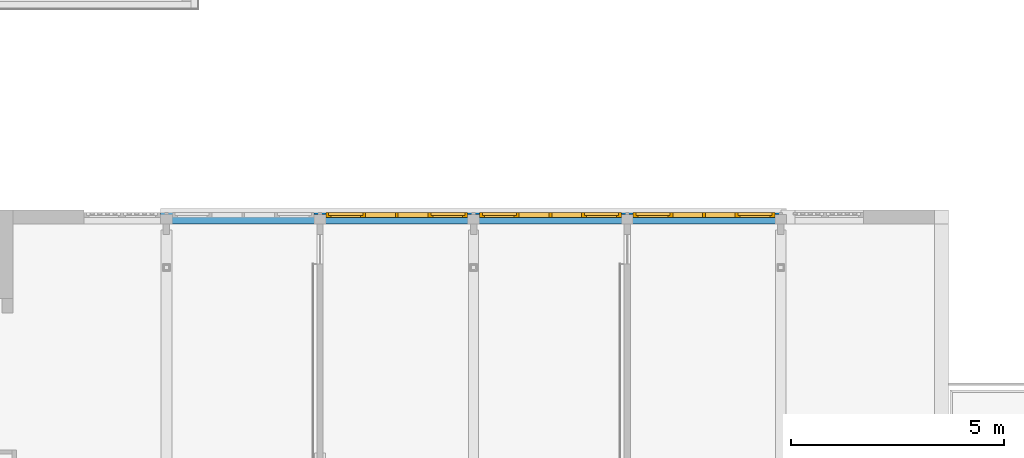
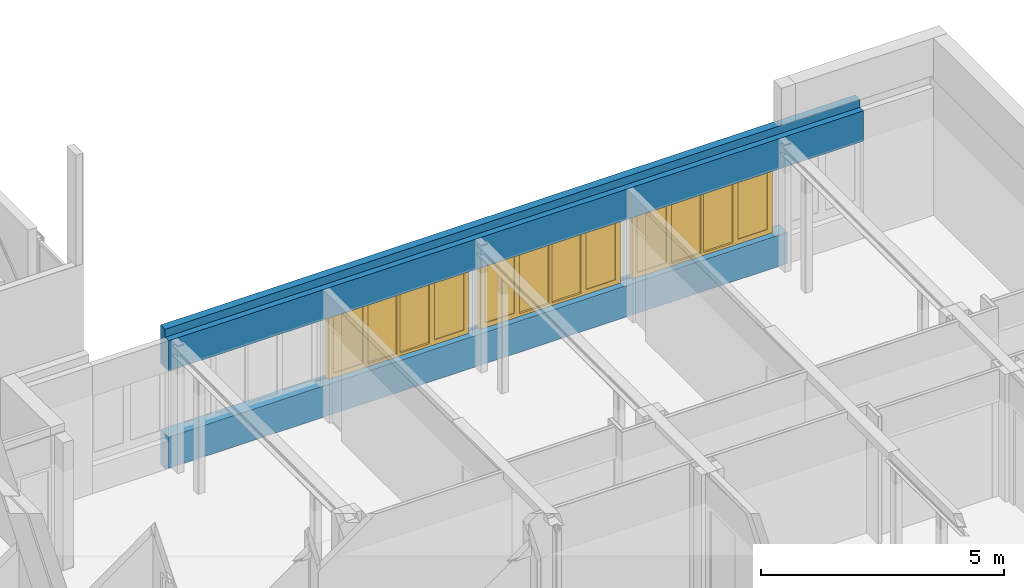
# One storey, part 41 of 117: 3 windows, 1 wall, 6 openings.
"""IFC2X3 building model written with IfcOpenShell, lengths in millimetres."""

from ifc_helpers import new_model, entity, si_unit, converted_unit, derived_unit, money_unit, direction, frame, origin_with_axes, place, context, subcontext, project, spatial, open_shell, faceted_brep, surface_model, source, transform, mapped, material, type_object, type_shapes, element, fill, save


model = new_model("IFC2X3")

# Units and contexts
model_context = context("Model", 3, precision=0.01, world=origin_with_axes(), true_north=direction((0.0, 1.0)))
body_context = subcontext(model_context, "Body", "Model", "MODEL_VIEW")
ifc_project = project(units=[si_unit("LENGTHUNIT", "METRE", prefix="MILLI"), si_unit("AREAUNIT", "SQUARE_METRE"), si_unit("VOLUMEUNIT", "CUBIC_METRE"), converted_unit("PLANEANGLEUNIT", "DEGREE", entity("IfcPlaneAngleMeasure", 0.0174532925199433), si_unit("PLANEANGLEUNIT", "RADIAN"), dimensions=[0, 0, 0, 0, 0, 0, 0]), money_unit("EUR"), converted_unit("TIMEUNIT", "Year", entity("IfcTimeMeasure", 31557600.0), si_unit("TIMEUNIT", "SECOND"), dimensions=[0, 0, 1, 0, 0, 0, 0]), si_unit("MASSUNIT", "GRAM", prefix="KILO"), si_unit("THERMODYNAMICTEMPERATUREUNIT", "DEGREE_CELSIUS"), si_unit("LUMINOUSINTENSITYUNIT", "LUMEN"), si_unit("ENERGYUNIT", "JOULE", prefix="MEGA"), derived_unit("THERMALCONDUCTANCEUNIT", [(si_unit("POWERUNIT", "WATT"), 1), (si_unit("LENGTHUNIT", "METRE"), -1), (si_unit("THERMODYNAMICTEMPERATUREUNIT", "KELVIN"), -1)]), derived_unit("SPECIFICHEATCAPACITYUNIT", [(si_unit("ENERGYUNIT", "JOULE"), 1), (si_unit("MASSUNIT", "GRAM", prefix="KILO"), -1), (si_unit("THERMODYNAMICTEMPERATUREUNIT", "KELVIN"), -1)]), derived_unit("MASSDENSITYUNIT", [(si_unit("MASSUNIT", "GRAM", prefix="KILO"), 1), (si_unit("VOLUMEUNIT", "CUBIC_METRE"), -1)])], contexts=[model_context])

# Site, building, storey
site_placement = place(None, origin_with_axes())
site = spatial("IfcSite", under=ifc_project, at=site_placement, Name="Site", CompositionType="ELEMENT")
building_placement = place(site_placement, origin_with_axes())
building = spatial("IfcBuilding", under=site, at=building_placement, Name="Naam gebouw", CompositionType="ELEMENT")
storey_placement = place(building_placement, frame((0.0, 0.0, 4150.0), z_axis=(0.0, 0.0, 1.0), x_axis=(1.0, 0.0, 0.0)))
storey = spatial("IfcBuildingStorey", under=building, at=storey_placement, Name="1e verdieping N", CompositionType="ELEMENT", Elevation=4150.0)

# Wall, openings, windows
ifc_material = material(Name="ALG - CONSTRUCTIEF")
wall_type = type_object("IfcWallType", Name="ALG - CONSTRUCTIEF 330", PredefinedType="NOTDEFINED")
wall_placement = place(storey_placement, frame((52337.49999999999, 27505.91242510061, -99.99999999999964), z_axis=(0.0, 0.0, 1.0), x_axis=(-1.0, 0.0, 0.0)))
wall = element("IfcWall", 1, at=wall_placement, inside=storey, type_object=wall_type, material=ifc_material, Name="_Wand-x", context=body_context, shape_type="Brep", body=[
    faceted_brep([(1799.999999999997, -216.0000000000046, 883.0000000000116), (1799.999999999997, -259.999999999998, 883.0000000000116), (2075.00000000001, -259.999999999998, 883.0000000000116), (2075.00000000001, -216.0000000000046, 883.0000000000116), (1799.999999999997, 0.0, 883.0000000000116), (1799.999999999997, 0.0, 786.5000000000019), (1799.999999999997, -146.0000000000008, 786.5000000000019), (1799.999999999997, -145.9999999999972, 99.99999999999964), (1799.999999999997, -145.9999999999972, 0.0), (1799.999999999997, -259.999999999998, 0.0), (1799.999999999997, -329.9999999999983, 0.0), (1799.999999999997, -329.9999999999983, 883.0000000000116), (16475.0, -329.9999999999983, 883.0000000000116), (16475.0, -259.999999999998, 883.0000000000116), (16200.0, -259.999999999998, 883.0000000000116), (16200.0, -216.0000000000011, 883.0000000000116), (16474.99999999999, -216.0000000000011, 883.0000000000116), (16474.99999999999, 0.0, 883.0000000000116), (5675.000000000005, -259.999999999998, 883.0000000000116), (5399.999999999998, -259.999999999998, 883.0000000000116), (5399.999999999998, -216.0000000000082, 883.0000000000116), (5675.000000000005, -216.0000000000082, 882.9999999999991), (9275.000000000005, -259.9999999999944, 883.0000000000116), (9000.0, -259.9999999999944, 883.0000000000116), (9000.0, -216.0000000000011, 882.9999999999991), (9275.000000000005, -216.0000000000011, 882.9999999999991), (12875.00000000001, -259.999999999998, 883.0000000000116), (12599.99999999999, -259.999999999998, 883.0000000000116), (12599.99999999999, -216.0000000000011, 883.0000000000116), (12875.00000000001, -216.0000000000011, 883.0000000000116), (16475.0, 0.0, 786.5000000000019), (16475.0, 0.0, 99.99999999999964), (1799.999999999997, 0.0, 99.99999999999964), (16475.0, -145.9999999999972, 99.99999999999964), (16475.0, -145.9999999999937, 0.0), (16475.0, -329.9999999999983, 0.0), (16475.0, -145.9999999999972, 786.5000000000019)], [[[0, 1, 2, 3]], [[1, 0, 4, 5, 6, 7, 8, 9, 10, 11]], [[4, 0, 3, 2, 1, 11, 12, 13, 14, 15, 16, 17], [18, 19, 20, 21], [22, 23, 24, 25], [26, 27, 28, 29]], [[5, 4, 17, 30, 31, 32]], [[6, 5, 32, 7]], [[8, 7, 33, 34]], [[9, 8, 34, 35, 10]], [[10, 35, 12, 11]], [[16, 13, 12, 35, 34, 33, 36, 30, 17]], [[14, 13, 16, 15]], [[19, 18, 21, 20]], [[23, 22, 25, 24]], [[27, 26, 29, 28]], [[36, 33, 31, 30]], [[7, 32, 31, 33]]]),
    faceted_brep([(0.0, 0.0, 2539.999999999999), (0.0, -259.999999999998, 2539.999999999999), (0.0, -329.9999999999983, 2539.999999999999), (0.0, -329.9999999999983, 3500.0), (0.0, -145.5905537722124, 3500.0), (0.0, -145.5905537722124, 3300.0), (0.0, 0.0, 3300.0), (1799.999999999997, 0.0, 2539.999999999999), (16474.99999999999, 0.0, 2539.999999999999), (16475.0, -145.9999999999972, 2539.999999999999), (16474.99999999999, -216.0000000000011, 2539.999999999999), (16200.0, -216.0000000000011, 2539.999999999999), (16200.0, -259.999999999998, 2539.999999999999), (16475.0, -259.999999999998, 2539.999999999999), (16475.0, -329.9999999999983, 2539.999999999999), (5399.999999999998, -216.0000000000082, 2539.999999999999), (5399.999999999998, -259.999999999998, 2539.999999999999), (5675.000000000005, -259.999999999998, 2539.999999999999), (5675.000000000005, -216.0000000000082, 2539.999999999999), (9000.0, -259.9999999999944, 2539.999999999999), (9275.000000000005, -259.9999999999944, 2539.999999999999), (9275.000000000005, -216.0000000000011, 2539.999999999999), (9000.0, -216.0000000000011, 2539.999999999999), (12599.99999999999, -259.999999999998, 2539.999999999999), (12875.00000000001, -259.999999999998, 2539.999999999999), (12875.00000000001, -216.0000000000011, 2539.999999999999), (12599.99999999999, -216.0000000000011, 2539.999999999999), (1799.999999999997, -216.0000000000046, 2539.999999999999), (1799.999999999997, -259.999999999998, 2539.999999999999), (2075.00000000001, -259.999999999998, 2539.999999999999), (2075.00000000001, -216.0000000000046, 2539.999999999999), (16475.0, -329.9999999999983, 3500.0), (16475.0, -146.0000000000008, 3500.0), (16475.0, -146.0000000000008, 3300.0), (16475.0, 0.0, 3300.0)], [[[0, 1, 2, 3, 4, 5, 6]], [[7, 8, 9, 10, 11, 12, 13, 14, 2, 1, 0], [15, 16, 17, 18], [19, 20, 21, 22], [23, 24, 25, 26], [27, 28, 29, 30]], [[14, 31, 3, 2]], [[4, 3, 31, 32]], [[5, 4, 32, 33]], [[6, 5, 33, 34]], [[7, 0, 6, 34, 8]], [[33, 9, 8, 34]], [[33, 32, 31, 14, 13, 10, 9]], [[13, 12, 11, 10]], [[16, 15, 18, 17]], [[20, 19, 22, 21]], [[24, 23, 26, 25]], [[28, 27, 30, 29]]]),
])
opening_1_placement = place(wall_placement, frame((3737.499999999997, 0.0, 883.0000000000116), z_axis=(0.0, 0.0, 1.0), x_axis=(1.0, 0.0, 0.0)))
opening_1 = element("IfcOpeningElement", 2, at=opening_1_placement, cuts=wall, Name="_Merk-038", context=body_context, shape_type="Brep", body=[
    faceted_brep([(1662.500000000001, -259.999999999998, 0.0), (1662.500000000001, -259.999999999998, 1656.999999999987), (1662.500000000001, -331.0000000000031, 1656.999999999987), (1662.500000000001, -331.0000000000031, 0.0), (1662.500000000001, 1.000000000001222, 0.0), (1662.500000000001, 1.000000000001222, 1656.999999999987), (-1937.5, -259.999999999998, 1656.999999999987), (-1937.5, -331.0000000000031, 1656.999999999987), (-1937.5, 1.000000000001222, 1656.999999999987), (-1937.5, -331.0000000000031, 0.0), (-1937.5, -259.999999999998, 0.0), (-1937.5, 1.000000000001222, 0.0)], [[[0, 1, 2, 3]], [[1, 0, 4, 5]], [[6, 7, 2, 1, 5, 8]], [[7, 9, 3, 2]], [[0, 3, 9, 10, 11, 4]], [[5, 4, 11, 8]], [[6, 10, 9, 7]], [[10, 6, 8, 11]]]),
])
opening_2_placement = place(wall_placement, frame((10937.5, 0.0, 883.0000000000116), z_axis=(0.0, 0.0, 1.0), x_axis=(1.0, 0.0, 0.0)))
opening_2 = element("IfcOpeningElement", 3, at=opening_2_placement, cuts=wall, Name="_Merk-038", context=body_context, shape_type="Brep", body=[
    faceted_brep([(1662.500000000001, -259.9999999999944, 0.0), (1662.500000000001, -259.9999999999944, 1656.999999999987), (1662.500000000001, -330.9999999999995, 1656.999999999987), (1662.500000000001, -330.9999999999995, 0.0), (1662.500000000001, 1.000000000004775, 0.0), (1662.500000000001, 1.000000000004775, 1656.999999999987), (-1937.5, -259.9999999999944, 1656.999999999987), (-1937.5, -330.9999999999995, 1656.999999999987), (-1937.5, 1.000000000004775, 1656.999999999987), (-1937.5, -330.9999999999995, 0.0), (-1937.5, -259.9999999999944, 0.0), (-1937.5, 1.000000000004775, 0.0)], [[[0, 1, 2, 3]], [[1, 0, 4, 5]], [[6, 7, 2, 1, 5, 8]], [[7, 9, 3, 2]], [[0, 3, 9, 10, 11, 4]], [[5, 4, 11, 8]], [[6, 10, 9, 7]], [[10, 6, 8, 11]]]),
])
opening_3_placement = place(wall_placement, frame((14537.49999999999, 0.0, 883.0000000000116), z_axis=(0.0, 0.0, 1.0), x_axis=(1.0, 0.0, 0.0)))
element("IfcOpeningElement", 4, at=opening_3_placement, cuts=wall, Name="_Merk-038", context=body_context, shape_type="Brep", body=[
    faceted_brep([(1937.5, -259.999999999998, 0.0), (1937.5, -259.999999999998, 1656.999999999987), (1937.5, -330.9999999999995, 1656.999999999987), (1937.5, -330.9999999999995, 0.0), (1937.5, 1.000000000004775, 0.0), (1937.5, 1.000000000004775, 1656.999999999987), (-1937.5, -259.999999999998, 1656.999999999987), (-1937.5, -330.9999999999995, 1656.999999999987), (-1937.5, 1.000000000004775, 1656.999999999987), (-1937.5, -330.9999999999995, 0.0), (-1937.5, -259.999999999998, 0.0), (-1937.5, 1.000000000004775, 0.0)], [[[0, 1, 2, 3]], [[1, 0, 4, 5]], [[6, 7, 2, 1, 5, 8]], [[7, 9, 3, 2]], [[0, 3, 9, 10, 11, 4]], [[5, 4, 11, 8]], [[6, 10, 9, 7]], [[10, 6, 8, 11]]]),
])
opening_4_placement = place(wall_placement, frame((7337.499999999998, 0.0, 883.0000000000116), z_axis=(0.0, 0.0, 1.0), x_axis=(1.0, 0.0, 0.0)))
opening_4 = element("IfcOpeningElement", 5, at=opening_4_placement, cuts=wall, Name="_Merk-038", context=body_context, shape_type="Brep", body=[
    faceted_brep([(1662.500000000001, -259.999999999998, 0.0), (1662.500000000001, -259.999999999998, 1656.999999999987), (1662.500000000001, -331.0000000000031, 1656.999999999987), (1662.500000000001, -331.0000000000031, 0.0), (1662.500000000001, 1.000000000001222, 0.0), (1662.500000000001, 1.000000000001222, 1656.999999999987), (-1937.5, -260.0000000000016, 1656.999999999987), (-1937.5, -331.0000000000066, 1656.999999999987), (-1937.5, 0.9999999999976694, 1656.999999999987), (-1937.5, -331.0000000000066, 0.0), (-1937.5, -260.0000000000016, 0.0), (-1937.5, 0.9999999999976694, 0.0)], [[[0, 1, 2, 3]], [[1, 0, 4, 5]], [[6, 7, 2, 1, 5, 8]], [[7, 9, 3, 2]], [[0, 3, 9, 10, 11, 4]], [[5, 4, 11, 8]], [[6, 10, 9, 7]], [[10, 6, 8, 11]]]),
])
opening_5_placement = place(wall_placement, frame((17375.0, 0.0, -960.0000000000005), z_axis=(0.0, 0.0, 1.0), x_axis=(1.0, 0.0, 0.0)))
element("IfcOpeningElement", 6, at=opening_5_placement, cuts=wall, Name="_Merk-037", context=body_context, shape_type="Brep", body=[
    faceted_brep([(899.9999999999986, -259.999999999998, 0.0), (899.9999999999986, -259.999999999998, 4500.0), (899.9999999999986, -330.9999999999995, 4500.0), (899.9999999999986, -330.9999999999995, 0.0), (899.9999999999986, 1.000000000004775, 0.0), (899.9999999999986, 1.000000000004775, 4500.0), (-899.9999999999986, -259.999999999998, 4500.0), (-899.9999999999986, -330.9999999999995, 4500.0), (-899.9999999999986, 1.000000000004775, 4500.0), (-899.9999999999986, -330.9999999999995, 0.0), (-899.9999999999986, -259.999999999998, 0.0), (-899.9999999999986, 1.000000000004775, 0.0)], [[[0, 1, 2, 3]], [[1, 0, 4, 5]], [[6, 7, 2, 1, 5, 8]], [[7, 9, 3, 2]], [[0, 3, 9, 10, 11, 4]], [[5, 4, 11, 8]], [[6, 10, 9, 7]], [[10, 6, 8, 11]]]),
])
opening_6_placement = place(wall_placement, frame((899.9999999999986, 0.0, -960.0000000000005), z_axis=(0.0, 0.0, 1.0), x_axis=(1.0, 0.0, 0.0)))
element("IfcOpeningElement", 7, at=opening_6_placement, cuts=wall, Name="_Merk-037", context=body_context, shape_type="Brep", body=[
    faceted_brep([(899.9999999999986, -259.999999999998, 0.0), (899.9999999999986, -259.999999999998, 3500.0), (899.9999999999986, -331.0000000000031, 3500.0), (899.9999999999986, -331.0000000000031, 0.0), (899.9999999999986, 1.000000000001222, 0.0), (899.9999999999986, 1.000000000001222, 3500.0), (-899.9999999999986, -259.999999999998, 3500.0), (-899.9999999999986, -331.0000000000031, 3500.0), (-899.9999999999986, 1.000000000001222, 3500.0), (-899.9999999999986, -331.0000000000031, 0.0), (-899.9999999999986, -259.999999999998, 0.0), (-899.9999999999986, 1.000000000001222, 0.0)], [[[0, 1, 2, 3]], [[1, 0, 4, 5]], [[6, 7, 2, 1, 5, 8]], [[7, 9, 3, 2]], [[0, 3, 9, 10, 11, 4]], [[5, 4, 11, 8]], [[6, 10, 9, 7]], [[10, 6, 8, 11]]]),
])
window_style = type_object("IfcWindowStyle", Name="Rnx horizontaal 26", ConstructionType="NOTDEFINED", OperationType="USERDEFINED", ParameterTakesPrecedence=False, Sizeable=False)
shared_shape = source(origin_with_axes(), body_context, "Body", "SurfaceModel", [
    faceted_brep([(1612.5, 0.0, 1589.999999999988), (1612.5, -54.00000000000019, 1589.999999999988), (1595.5, -54.0000000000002, 1589.999999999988), (1595.5, -114.0000000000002, 1589.999999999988), (1662.5, -114.0000000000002, 1589.999999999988), (1662.5, 0.0, 1589.999999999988), (1612.5, 0.0, 66.99999999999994), (1612.5, -54.00000000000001, 66.99999999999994), (1595.5, -54.00000000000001, 66.99999999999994), (1595.5, -114.0, 66.99999999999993), (1662.5, -114.0, 66.99999999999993), (1662.5, 0.0, 66.99999999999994)], [[[0, 1, 2, 3, 4, 5]], [[1, 0, 6, 7]], [[8, 2, 1, 7]], [[2, 8, 9, 3]], [[4, 3, 9, 10]], [[5, 4, 10, 11]], [[6, 0, 5, 11]], [[7, 6, 11, 10, 9, 8]]]),
    faceted_brep([(-1595.5, -54.0000000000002, 1589.999999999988), (-1612.5, -54.00000000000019, 1589.999999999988), (-1612.5, 0.0, 1589.999999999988), (-1662.5, 0.0, 1589.999999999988), (-1662.5, -114.0000000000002, 1589.999999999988), (-1595.5, -114.0000000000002, 1589.999999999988), (-1595.5, -54.00000000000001, 66.99999999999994), (-1612.5, -54.00000000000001, 66.99999999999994), (-1612.5, 0.0, 66.99999999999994), (-1662.5, 0.0, 66.99999999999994), (-1662.5, -114.0, 66.99999999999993), (-1595.5, -114.0, 66.99999999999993)], [[[0, 1, 2, 3, 4, 5]], [[1, 0, 6, 7]], [[8, 2, 1, 7]], [[2, 8, 9, 3]], [[9, 10, 4, 3]], [[10, 11, 5, 4]], [[6, 0, 5, 11]], [[7, 6, 11, 10, 9, 8]]]),
    faceted_brep([(1612.5, 0.0, 1589.999999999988), (1612.5, 0.0, 1606.999999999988), (781.0000000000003, 0.0, 1606.999999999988), (781.0000000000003, 0.0, 1589.999999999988), (731.0000000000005, 0.0, 1589.999999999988), (33.50000000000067, 0.0, 1589.999999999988), (-33.49999999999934, 0.0, 1589.999999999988), (-730.9999999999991, 0.0, 1589.999999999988), (-780.999999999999, 0.0, 1589.999999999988), (-780.999999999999, 0.0, 1606.999999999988), (-1612.5, 0.0, 1606.999999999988), (-1612.5, 0.0, 1589.999999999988), (-1662.5, 0.0, 1589.999999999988), (-1662.5, 0.0, 1656.999999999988), (1662.5, 0.0, 1656.999999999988), (1662.5, 0.0, 1589.999999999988), (1612.5, -54.00000000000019, 1589.999999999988), (1612.5, -54.00000000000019, 1606.999999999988), (781.0000000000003, -54.00000000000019, 1606.999999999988), (781.0000000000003, -54.00000000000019, 1589.999999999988), (798.0000000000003, -54.0000000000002, 1589.999999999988), (798.0000000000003, -114.0000000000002, 1589.999999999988), (731.0000000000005, -114.0000000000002, 1589.999999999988), (33.50000000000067, -114.0000000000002, 1589.999999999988), (-33.49999999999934, -114.0000000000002, 1589.999999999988), (-730.9999999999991, -114.0000000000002, 1589.999999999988), (-780.999999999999, -54.00000000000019, 1589.999999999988), (-797.9999999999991, -114.0000000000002, 1589.999999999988), (-797.9999999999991, -54.0000000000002, 1589.999999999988), (-780.999999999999, -54.00000000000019, 1606.999999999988), (-1612.5, -54.00000000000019, 1606.999999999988), (-1612.5, -54.00000000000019, 1589.999999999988), (-1595.5, -54.0000000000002, 1589.999999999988), (-1595.5, -114.0000000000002, 1589.999999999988), (-1662.5, -114.0000000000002, 1589.999999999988), (-1662.5, -114.0000000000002, 1656.999999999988), (1662.5, -114.0000000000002, 1656.999999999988), (1662.5, -114.0000000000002, 1589.999999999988), (1595.5, -114.0000000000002, 1589.999999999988), (1595.5, -54.0000000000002, 1589.999999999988)], [[[0, 1, 2, 3, 4, 5, 6, 7, 8, 9, 10, 11, 12, 13, 14, 15]], [[1, 0, 16, 17]], [[2, 1, 17, 18]], [[3, 2, 18, 19]], [[19, 20, 21, 22, 4, 3]], [[4, 22, 23, 5]], [[5, 23, 24, 6]], [[6, 24, 25, 7]], [[26, 8, 7, 25, 27, 28]], [[9, 8, 26, 29]], [[10, 9, 29, 30]], [[11, 10, 30, 31]], [[31, 32, 33, 34, 12, 11]], [[12, 34, 35, 13]], [[13, 35, 36, 14]], [[14, 36, 37, 15]], [[16, 0, 15, 37, 38, 39]], [[20, 19, 18, 17, 16, 39]], [[20, 39, 38, 21]], [[34, 33, 27, 25, 24, 23, 22, 21, 38, 37, 36, 35]], [[32, 28, 27, 33]], [[32, 31, 30, 29, 26, 28]]]),
    faceted_brep([(798.0000000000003, -54.00000000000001, 66.99999999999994), (781.0000000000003, -54.00000000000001, 66.99999999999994), (781.0000000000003, 0.0, 66.99999999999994), (731.0000000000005, 0.0, 66.99999999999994), (731.0000000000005, -114.0, 66.99999999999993), (798.0000000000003, -114.0, 66.99999999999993), (1595.5, -54.00000000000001, 66.99999999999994), (1612.5, -54.00000000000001, 66.99999999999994), (1612.5, -54.00000000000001, 50.00000000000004), (781.0000000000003, -54.00000000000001, 50.00000000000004), (781.0000000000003, 0.0, 50.00000000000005), (1612.5, 0.0, 50.00000000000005), (1612.5, 0.0, 66.99999999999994), (1662.5, 0.0, 66.99999999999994), (1662.5, 0.0, 0.0), (-1662.5, 0.0, 0.0), (-1662.5, 0.0, 66.99999999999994), (-1612.5, 0.0, 66.99999999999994), (-1612.5, 0.0, 50.00000000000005), (-780.999999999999, 0.0, 50.00000000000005), (-780.999999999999, 0.0, 66.99999999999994), (-730.9999999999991, 0.0, 66.99999999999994), (-33.49999999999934, 0.0, 66.99999999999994), (33.50000000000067, 0.0, 66.99999999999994), (33.50000000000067, -114.0, 66.99999999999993), (-730.9999999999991, -114.0, 66.99999999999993), (-797.9999999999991, -114.0, 66.99999999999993), (-1595.5, -114.0, 66.99999999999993), (-1662.5, -114.0, 66.99999999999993), (-1662.5, -114.0, 0.0), (1662.5, -114.0, 0.0), (1662.5, -114.0, 66.99999999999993), (1595.5, -114.0, 66.99999999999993), (-33.49999999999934, -114.0, 66.99999999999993), (-1595.5, -54.00000000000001, 66.99999999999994), (-1612.5, -54.00000000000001, 66.99999999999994), (-1612.5, -54.00000000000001, 50.00000000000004), (-780.999999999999, -54.00000000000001, 50.00000000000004), (-780.999999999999, -54.00000000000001, 66.99999999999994), (-797.9999999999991, -54.00000000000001, 66.99999999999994)], [[[0, 1, 2, 3, 4, 5]], [[1, 0, 6, 7, 8, 9]], [[10, 2, 1, 9]], [[11, 12, 13, 14, 15, 16, 17, 18, 19, 20, 21, 22, 23, 3, 2, 10]], [[23, 24, 4, 3]], [[25, 26, 27, 28, 29, 30, 31, 32, 5, 4, 24, 33]], [[6, 0, 5, 32]], [[7, 6, 32, 31, 13, 12]], [[7, 12, 11, 8]], [[11, 10, 9, 8]], [[13, 31, 30, 14]], [[14, 30, 29, 15]], [[15, 29, 28, 16]], [[34, 35, 17, 16, 28, 27]], [[18, 17, 35, 36]], [[19, 18, 36, 37]], [[38, 20, 19, 37]], [[38, 39, 26, 25, 21, 20]], [[21, 25, 33, 22]], [[22, 33, 24, 23]], [[39, 34, 27, 26]], [[35, 34, 39, 38, 37, 36]]]),
    faceted_brep([(798.0000000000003, -54.0000000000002, 1589.999999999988), (781.0000000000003, -54.00000000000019, 1589.999999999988), (781.0000000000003, 0.0, 1589.999999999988), (731.0000000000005, 0.0, 1589.999999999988), (731.0000000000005, -114.0000000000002, 1589.999999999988), (798.0000000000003, -114.0000000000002, 1589.999999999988), (798.0000000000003, -54.00000000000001, 66.99999999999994), (781.0000000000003, -54.00000000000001, 66.99999999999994), (781.0000000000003, 0.0, 66.99999999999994), (731.0000000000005, 0.0, 66.99999999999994), (731.0000000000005, -114.0, 66.99999999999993), (798.0000000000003, -114.0, 66.99999999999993)], [[[0, 1, 2, 3, 4, 5]], [[1, 0, 6, 7]], [[8, 2, 1, 7]], [[2, 8, 9, 3]], [[9, 10, 4, 3]], [[4, 10, 11, 5]], [[6, 0, 5, 11]], [[7, 6, 11, 10, 9, 8]]]),
    faceted_brep([(-33.49999999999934, 0.0, 66.99999999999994), (-33.49999999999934, -114.0, 66.99999999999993), (-33.49999999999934, -114.0000000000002, 1589.999999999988), (-33.49999999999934, 0.0, 1589.999999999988), (33.50000000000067, 0.0, 66.99999999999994), (33.50000000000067, -114.0, 66.99999999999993), (33.50000000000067, -114.0000000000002, 1589.999999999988), (33.50000000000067, 0.0, 1589.999999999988)], [[[0, 1, 2, 3]], [[4, 5, 1, 0]], [[2, 1, 5, 6]], [[3, 2, 6, 7]], [[4, 0, 3, 7]], [[7, 6, 5, 4]]]),
    faceted_brep([(-780.999999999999, 0.0, 1589.999999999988), (-780.999999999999, -54.00000000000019, 1589.999999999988), (-797.9999999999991, -54.0000000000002, 1589.999999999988), (-797.9999999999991, -114.0000000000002, 1589.999999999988), (-730.9999999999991, -114.0000000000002, 1589.999999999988), (-730.9999999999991, 0.0, 1589.999999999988), (-780.999999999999, 0.0, 66.99999999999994), (-780.999999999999, -54.00000000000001, 66.99999999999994), (-797.9999999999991, -54.00000000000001, 66.99999999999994), (-797.9999999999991, -114.0, 66.99999999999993), (-730.9999999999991, -114.0, 66.99999999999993), (-730.9999999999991, 0.0, 66.99999999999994)], [[[0, 1, 2, 3, 4, 5]], [[1, 0, 6, 7]], [[8, 2, 1, 7]], [[2, 8, 9, 3]], [[3, 9, 10, 4]], [[5, 4, 10, 11]], [[6, 0, 5, 11]], [[7, 6, 11, 10, 9, 8]]]),
    faceted_brep([(1545.5, -54.00000000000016, 1539.999999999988), (1612.5, -54.00000000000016, 1539.999999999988), (1612.5, 0.0, 1539.999999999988), (1545.5, 0.0, 1539.999999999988), (1545.5, -53.99999999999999, 117.0), (1612.5, -53.99999999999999, 117.0), (1612.5, 0.0, 117.0), (1545.5, 0.0, 117.0)], [[[0, 1, 2, 3]], [[0, 4, 5, 1]], [[1, 5, 6, 2]], [[3, 2, 6, 7]], [[4, 0, 3, 7]], [[5, 4, 7, 6]]]),
    faceted_brep([(848.0000000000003, -54.00000000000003, 117.0), (781.0000000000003, -54.00000000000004, 117.0), (781.0000000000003, 0.0, 117.0), (848.0000000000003, 0.0, 117.0), (848.0000000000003, -54.0000000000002, 1539.999999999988), (781.0000000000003, -54.00000000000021, 1539.999999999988), (781.0000000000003, 0.0, 1539.999999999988), (848.0000000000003, 0.0, 1539.999999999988)], [[[0, 1, 2, 3]], [[0, 4, 5, 1]], [[1, 5, 6, 2]], [[3, 2, 6, 7]], [[4, 0, 3, 7]], [[5, 4, 7, 6]]]),
    faceted_brep([(781.0000000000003, -54.00000000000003, 50.00000000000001), (781.0000000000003, -54.00000000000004, 117.0), (781.0000000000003, 0.0, 117.0), (781.0000000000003, 0.0, 50.00000000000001), (1612.5, -53.99999999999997, 50.00000000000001), (1612.5, -53.99999999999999, 117.0), (1545.5, -53.99999999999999, 117.0), (848.0000000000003, -54.00000000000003, 117.0), (848.0000000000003, 0.0, 117.0), (1545.5, 0.0, 117.0), (1612.5, 0.0, 117.0), (1612.5, 0.0, 50.00000000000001)], [[[0, 1, 2, 3]], [[0, 4, 5, 6, 7, 1]], [[1, 7, 8, 2]], [[3, 2, 8, 9, 10, 11]], [[4, 0, 3, 11]], [[5, 4, 11, 10]], [[6, 5, 10, 9]], [[7, 6, 9, 8]]]),
    faceted_brep([(1612.5, -54.00000000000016, 1606.999999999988), (1612.5, -54.00000000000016, 1539.999999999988), (1612.5, 0.0, 1539.999999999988), (1612.5, 0.0, 1606.999999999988), (781.0000000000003, -54.00000000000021, 1606.999999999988), (781.0000000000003, -54.00000000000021, 1539.999999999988), (848.0000000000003, -54.0000000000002, 1539.999999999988), (1545.5, -54.00000000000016, 1539.999999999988), (1545.5, 0.0, 1539.999999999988), (848.0000000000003, 0.0, 1539.999999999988), (781.0000000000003, 0.0, 1539.999999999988), (781.0000000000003, 0.0, 1606.999999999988)], [[[0, 1, 2, 3]], [[0, 4, 5, 6, 7, 1]], [[1, 7, 8, 2]], [[3, 2, 8, 9, 10, 11]], [[4, 0, 3, 11]], [[5, 4, 11, 10]], [[6, 5, 10, 9]], [[7, 6, 9, 8]]]),
    surface_model("IfcShellBasedSurfaceModel", [(1545.5, -37.00000000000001, 117.0), (1545.5, -37.00000000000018, 1539.999999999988), (848.0000000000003, -37.00000000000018, 1539.999999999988), (848.0000000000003, -37.00000000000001, 117.0)], [open_shell([[[0, 1, 2, 3]]])]),
    surface_model("IfcShellBasedSurfaceModel", [(1545.5, -17.0, 117.0), (848.0000000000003, -17.0, 117.0), (848.0000000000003, -17.00000000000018, 1539.999999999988), (1545.5, -17.00000000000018, 1539.999999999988)], [open_shell([[[0, 1, 2, 3]]])]),
    surface_model("IfcShellBasedSurfaceModel", [(731.0000000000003, -64.0, 66.99999999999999), (731.0000000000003, -64.00000000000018, 1589.999999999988), (33.50000000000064, -64.00000000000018, 1589.999999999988), (33.50000000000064, -64.0, 66.99999999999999)], [open_shell([[[0, 1, 2, 3]]])]),
    surface_model("IfcShellBasedSurfaceModel", [(731.0000000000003, -44.0, 66.99999999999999), (33.50000000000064, -44.0, 66.99999999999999), (33.50000000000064, -44.00000000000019, 1589.999999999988), (731.0000000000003, -44.00000000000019, 1589.999999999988)], [open_shell([[[0, 1, 2, 3]]])]),
    surface_model("IfcShellBasedSurfaceModel", [(-33.49999999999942, -64.0, 66.99999999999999), (-33.49999999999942, -64.00000000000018, 1589.999999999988), (-730.9999999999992, -64.00000000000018, 1589.999999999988), (-730.9999999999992, -64.0, 66.99999999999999)], [open_shell([[[0, 1, 2, 3]]])]),
    surface_model("IfcShellBasedSurfaceModel", [(-33.49999999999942, -44.0, 66.99999999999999), (-730.9999999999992, -44.0, 66.99999999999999), (-730.9999999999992, -44.00000000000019, 1589.999999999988), (-33.49999999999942, -44.00000000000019, 1589.999999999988)], [open_shell([[[0, 1, 2, 3]]])]),
    faceted_brep([(-847.9999999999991, -54.00000000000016, 1539.999999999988), (-780.999999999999, -54.00000000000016, 1539.999999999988), (-780.999999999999, 0.0, 1539.999999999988), (-847.9999999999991, 0.0, 1539.999999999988), (-847.9999999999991, -53.99999999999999, 117.0), (-780.999999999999, -53.99999999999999, 117.0), (-780.999999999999, 0.0, 117.0), (-847.9999999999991, 0.0, 117.0)], [[[0, 1, 2, 3]], [[0, 4, 5, 1]], [[1, 5, 6, 2]], [[3, 2, 6, 7]], [[4, 0, 3, 7]], [[5, 4, 7, 6]]]),
    faceted_brep([(-1545.5, -54.00000000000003, 117.0), (-1612.5, -54.00000000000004, 117.0), (-1612.5, 0.0, 117.0), (-1545.5, 0.0, 117.0), (-1545.5, -54.0000000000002, 1539.999999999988), (-1612.5, -54.00000000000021, 1539.999999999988), (-1612.5, 0.0, 1539.999999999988), (-1545.5, 0.0, 1539.999999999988)], [[[0, 1, 2, 3]], [[0, 4, 5, 1]], [[1, 5, 6, 2]], [[3, 2, 6, 7]], [[4, 0, 3, 7]], [[5, 4, 7, 6]]]),
    faceted_brep([(-1612.5, -54.00000000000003, 50.00000000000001), (-1612.5, -54.00000000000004, 117.0), (-1612.5, 0.0, 117.0), (-1612.5, 0.0, 50.00000000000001), (-780.999999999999, -53.99999999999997, 50.00000000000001), (-780.999999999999, -53.99999999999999, 117.0), (-847.9999999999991, -53.99999999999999, 117.0), (-1545.5, -54.00000000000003, 117.0), (-1545.5, 0.0, 117.0), (-847.9999999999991, 0.0, 117.0), (-780.999999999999, 0.0, 117.0), (-780.999999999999, 0.0, 50.00000000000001)], [[[0, 1, 2, 3]], [[0, 4, 5, 6, 7, 1]], [[1, 7, 8, 2]], [[3, 2, 8, 9, 10, 11]], [[4, 0, 3, 11]], [[5, 4, 11, 10]], [[6, 5, 10, 9]], [[7, 6, 9, 8]]]),
    faceted_brep([(-780.999999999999, -54.00000000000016, 1606.999999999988), (-780.999999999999, -54.00000000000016, 1539.999999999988), (-780.999999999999, 0.0, 1539.999999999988), (-780.999999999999, 0.0, 1606.999999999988), (-1612.5, -54.00000000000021, 1606.999999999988), (-1612.5, -54.00000000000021, 1539.999999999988), (-1545.5, -54.0000000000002, 1539.999999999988), (-847.9999999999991, -54.00000000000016, 1539.999999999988), (-847.9999999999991, 0.0, 1539.999999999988), (-1545.5, 0.0, 1539.999999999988), (-1612.5, 0.0, 1539.999999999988), (-1612.5, 0.0, 1606.999999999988)], [[[0, 1, 2, 3]], [[0, 4, 5, 6, 7, 1]], [[1, 7, 8, 2]], [[3, 2, 8, 9, 10, 11]], [[4, 0, 3, 11]], [[5, 4, 11, 10]], [[6, 5, 10, 9]], [[7, 6, 9, 8]]]),
    surface_model("IfcShellBasedSurfaceModel", [(-847.9999999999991, -37.00000000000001, 117.0), (-847.9999999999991, -37.00000000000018, 1539.999999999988), (-1545.5, -37.00000000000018, 1539.999999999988), (-1545.5, -37.00000000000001, 117.0)], [open_shell([[[0, 1, 2, 3]]])]),
    surface_model("IfcShellBasedSurfaceModel", [(-847.9999999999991, -17.0, 117.0), (-1545.5, -17.0, 117.0), (-1545.5, -17.00000000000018, 1539.999999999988), (-847.9999999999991, -17.00000000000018, 1539.999999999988)], [open_shell([[[0, 1, 2, 3]]])]),
])
type_shapes(window_style, [shared_shape])
window_1_placement = place(opening_4_placement, frame((-1662.500000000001, 0.0, 0.0), z_axis=(0.0, 0.0, 1.0), x_axis=(1.0, 0.0, 0.0)))
window_1 = element("IfcWindow", 8, at=window_1_placement, inside=storey, type_object=window_style, Name="_Merk-038", ObjectType="WINDOW", OverallHeight=1657.0, OverallWidth=3325.0, context=body_context, shape_type="MappedRepresentation", body=[
    mapped(shared_shape, transform((1662.500000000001, -145.9999999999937, 0.0))),
])
fill(opening_4, window_1)
window_2_placement = place(opening_1_placement, frame((-1662.500000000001, 0.0, 0.0), z_axis=(0.0, 0.0, 1.0), x_axis=(1.0, 0.0, 0.0)))
window_2 = element("IfcWindow", 9, at=window_2_placement, inside=storey, type_object=window_style, Name="_Merk-038", ObjectType="WINDOW", OverallHeight=1657.0, OverallWidth=3325.0, context=body_context, shape_type="MappedRepresentation", body=[
    mapped(shared_shape, transform((1662.500000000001, -145.9999999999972, 0.0))),
])
fill(opening_1, window_2)
window_3_placement = place(opening_2_placement, frame((-1662.500000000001, 0.0, 0.0), z_axis=(0.0, 0.0, 1.0), x_axis=(1.0, 0.0, 0.0)))
window_3 = element("IfcWindow", 10, at=window_3_placement, inside=storey, type_object=window_style, Name="_Merk-038", ObjectType="WINDOW", OverallHeight=1657.0, OverallWidth=3325.0, context=body_context, shape_type="MappedRepresentation", body=[
    mapped(shared_shape, transform((1662.500000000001, -145.9999999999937, 0.0))),
])
fill(opening_2, window_3)

save(model, "model.ifc")
